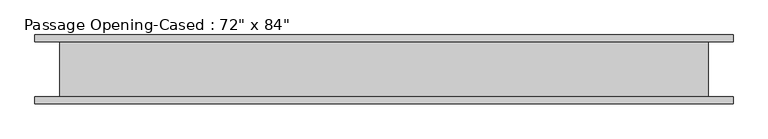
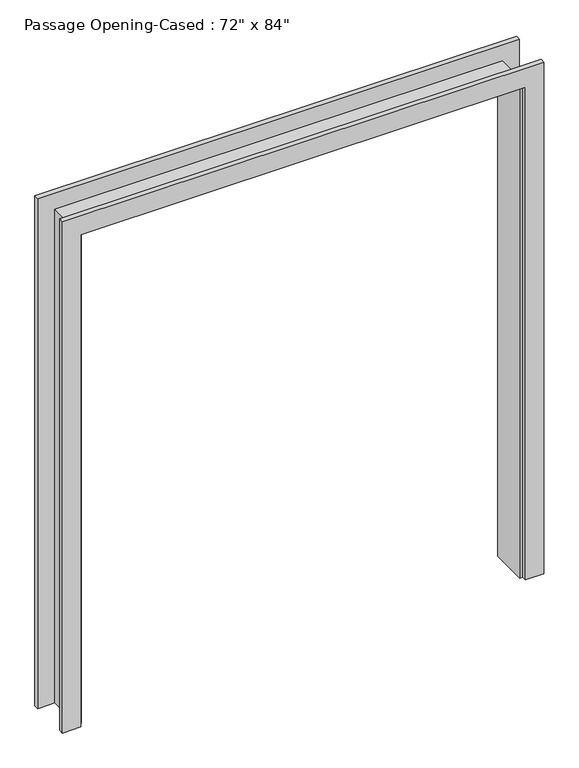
"""IFC4 building model written with IfcOpenShell, lengths in millimetres: proxy geometry."""

from ifc_helpers import new_model, si_unit, frame, origin, place, context, project, spatial, polyline, outline, extrude, faceted_brep, source, transform, mapped, element, save


def proxy_c8bab04c(model_context):
    return source(origin(), model_context, "Body", "SolidModel", [
        faceted_brep([(887.1613433, -77.7875, 0.0), (887.1613433, 77.7875, 0.0), (906.2113433, 77.7875, 0.0), (906.2113433, -77.7875, 0.0), (906.2113433, -77.7875, 2133.6), (887.1613433, -77.7875, 2114.55), (906.2113433, 77.7875, 2133.6), (887.1613433, 77.7875, 2114.55), (-922.5886567, -77.7875, 2133.6), (-903.5386567, -77.7875, 2114.55), (-922.5886567, 77.7875, 2133.6), (-903.5386567, 77.7875, 2114.55), (-903.5386567, -77.7875, 0.0), (-922.5886567, -77.7875, 0.0), (-922.5886567, 77.7875, 0.0), (-903.5386567, 77.7875, 0.0)], [[[0, 1, 2, 3]], [[3, 4, 5, 0]], [[2, 6, 4, 3]], [[1, 7, 6, 2]], [[0, 5, 7, 1]], [[4, 8, 9, 5]], [[6, 10, 8, 4]], [[7, 11, 10, 6]], [[5, 9, 11, 7]], [[12, 13, 14, 15]], [[8, 13, 12, 9]], [[10, 14, 13, 8]], [[11, 15, 14, 10]], [[9, 12, 15, 11]]]),
        extrude(outline(polyline([(0.0, 976.0613433), (2209.8, 976.0613433), (2209.8, -992.4386567), (0.0, -992.4386567), (0.0, -916.2386567), (2127.25, -916.2386567), (2127.25, 899.8613433), (0.0, 899.8613433), (0.0, 976.0613433)])), frame((0.0, -96.8375, 0.0), z_axis=(0.0, 1.0, 0.0), x_axis=(0.0, 0.0, 1.0)), (0.0, 0.0, 1.0), 19.05),
        extrude(outline(polyline([(0.0, -916.2386567), (2127.25, -916.2386567), (2127.25, 899.8613433), (0.0, 899.8613433), (0.0, 976.0613433), (2203.45, 976.0613433), (2203.45, -992.4386567), (0.0, -992.4386567), (0.0, -916.2386567)])), frame((0.0, 77.7875, 0.0), z_axis=(0.0, 1.0, 0.0), x_axis=(0.0, 0.0, 1.0)), (0.0, 0.0, 1.0), 19.05),
    ])


if __name__ == "__main__":
    model = new_model("IFC4")
    model_context = context("Model", 3, world=origin())
    ifc_project = project(units=[si_unit("LENGTHUNIT", "METRE", prefix="MILLI")], contexts=[model_context])
    site = spatial("IfcSite", under=ifc_project)
    building = spatial("IfcBuilding", under=site)
    placement = place(None, origin())
    proxy_shape = proxy_c8bab04c(model_context)
    element("IfcBuildingElementProxy", 1, Name="Passage Opening-Cased : 72\" x 84\"", ObjectType="Passage Opening-Cased : 72\" x 84\"", at=placement, inside=building, context=model_context, shape_type="MappedRepresentation", body=[
        mapped(proxy_shape, transform((0.0, 0.0, 0.0), x_axis=(1.0, 0.0, 0.0), y_axis=(0.0, 1.0, 0.0), z_axis=(0.0, 0.0, 1.0))),
    ])
    save(model, "model.ifc")
